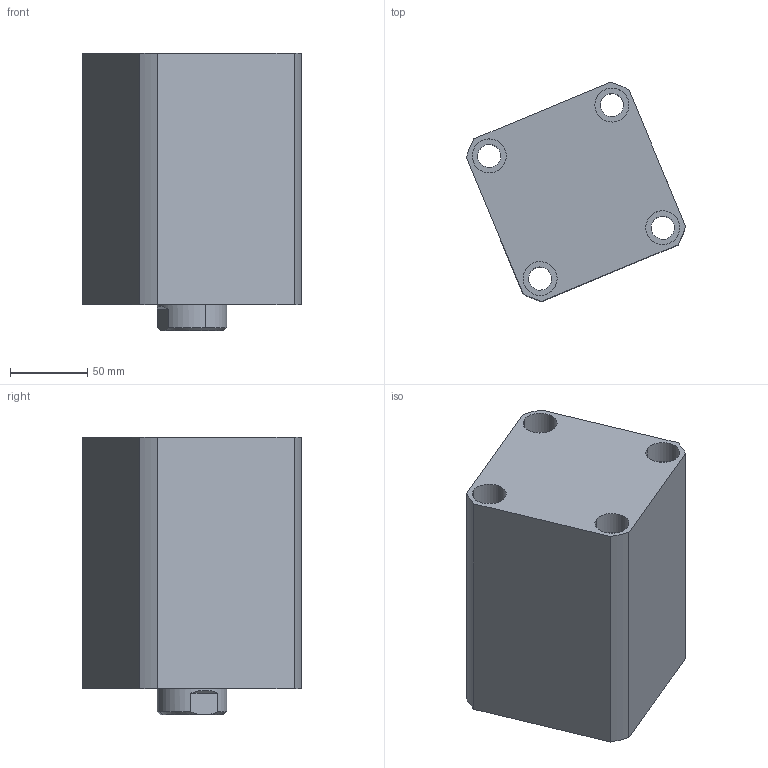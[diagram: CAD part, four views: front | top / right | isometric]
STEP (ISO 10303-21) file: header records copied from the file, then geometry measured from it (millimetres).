
FILE_DESCRIPTION (( 'STEP AP214' ), '1' );
FILE_NAME ('chtb-sd80x85n_asm.STEP', '2018-05-26T04:26:02', ( 'Windows' ), ( 'Microsoft' ), 'SwSTEP 2.0', 'SolidWorks 2015', '' );
FILE_SCHEMA (( 'AUTOMOTIVE_DESIGN' ));
Length unit declared in the file: millimetre
Products named in the file (4): CHTB-SD80X85NHSG; CHTB-SD80X85NBT; CHTB-SD80QG; chtb-sd80x85n_asm
Assembly tree (3 placements, depth 2):
  chtb-sd80x85n_asm
    CHTB-SD80QG
    CHTB-SD80X85NBT
    CHTB-SD80X85NHSG
Bounding box: 142.06 x 142.06 x 180 mm (x, y, z)
Volume: 1644778 mm3; surface area: 236231.8 mm2
Topology: 3 solids, 3 shells, 192 faces, 510 edges, 341 vertices
Faces by surface type: cylinder 103, plane 37, cone 20, torus 18, bspline 14
Entity records: 15144 total; most frequent: CARTESIAN_POINT 10435, ORIENTED_EDGE 1008, DIRECTION 889, EDGE_CURVE 504, AXIS2_PLACEMENT_3D 374, VERTEX_POINT 341, EDGE_LOOP 229, ADVANCED_FACE 192
